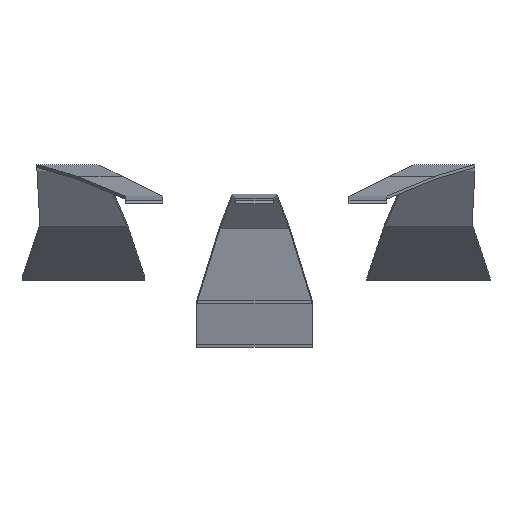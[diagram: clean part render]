
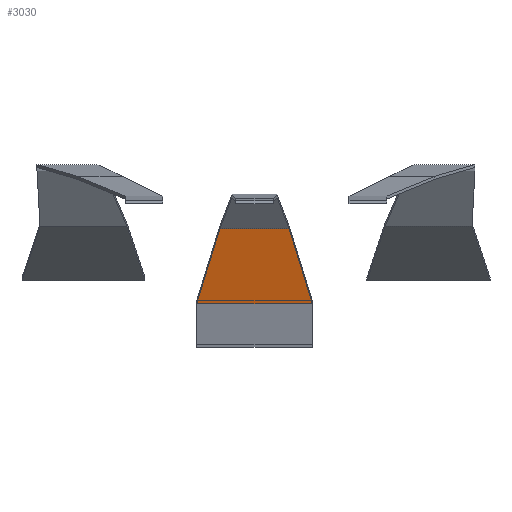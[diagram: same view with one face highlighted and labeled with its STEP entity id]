
A CAD part, top view. The second image highlights one B-rep face of the part: STEP entity #3030.
In plain terms, the highlighted free-form (B-spline) face has degree [1, 1] with [2, 2] control points.
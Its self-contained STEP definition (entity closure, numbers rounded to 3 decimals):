
#2724 = PLANE('',#2725);
#2725 = AXIS2_PLACEMENT_3D('',#2726,#2727,#2728);
#2726 = CARTESIAN_POINT('',(-3.95,-20.3,15.5));
#2727 = DIRECTION('',(0.,-0.326,0.945));
#2728 = DIRECTION('',(1.,0.,0.));
#2749 = VERTEX_POINT('',#2750);
#2750 = CARTESIAN_POINT('',(3.75,-20.3,15.5));
#2774 = EDGE_CURVE('',#2775,#2749,#2777,.T.);
#2775 = VERTEX_POINT('',#2776);
#2776 = CARTESIAN_POINT('',(-3.95,-20.3,15.5));
#2777 = SURFACE_CURVE('',#2778,(#2782,#2789),.PCURVE_S1.);
#2778 = LINE('',#2779,#2780);
#2779 = CARTESIAN_POINT('',(-3.95,-20.3,15.5));
#2780 = VECTOR('',#2781,1.);
#2781 = DIRECTION('',(1.,0.,0.));
#2782 = PCURVE('',#2724,#2783);
#2783 = DEFINITIONAL_REPRESENTATION('',(#2784),#2788);
#2784 = LINE('',#2785,#2786);
#2785 = CARTESIAN_POINT('',(0.,0.));
#2786 = VECTOR('',#2787,1.);
#2787 = DIRECTION('',(1.,0.));
#2788 = ( GEOMETRIC_REPRESENTATION_CONTEXT(2) 
PARAMETRIC_REPRESENTATION_CONTEXT() REPRESENTATION_CONTEXT('2D SPACE',''
  ) );
#2789 = PCURVE('',#2790,#2795);
#2790 = B_SPLINE_SURFACE_WITH_KNOTS('',1,1,(
    (#2791,#2792)
    ,(#2793,#2794
    )),.UNSPECIFIED.,.F.,.F.,.F.,(2,2),(2,2),(0.,7.7),(0.,1.),
  .PIECEWISE_BEZIER_KNOTS.);
#2791 = CARTESIAN_POINT('',(-3.95,-20.3,15.5));
#2792 = CARTESIAN_POINT('',(-2.4,-15.3,16.8));
#2793 = CARTESIAN_POINT('',(3.75,-20.3,15.5));
#2794 = CARTESIAN_POINT('',(2.2,-15.3,16.8));
#2795 = DEFINITIONAL_REPRESENTATION('',(#2796),#2800);
#2796 = LINE('',#2797,#2798);
#2797 = CARTESIAN_POINT('',(0.,0.));
#2798 = VECTOR('',#2799,1.);
#2799 = DIRECTION('',(1.,0.));
#2800 = ( GEOMETRIC_REPRESENTATION_CONTEXT(2) 
PARAMETRIC_REPRESENTATION_CONTEXT() REPRESENTATION_CONTEXT('2D SPACE',''
  ) );
#2892 = B_SPLINE_SURFACE_WITH_KNOTS('',1,1,(
    (#2893,#2894)
    ,(#2895,#2896
    )),.UNSPECIFIED.,.F.,.F.,.F.,(2,2),(2,2),(0.,0.2),(0.,1.),
  .PIECEWISE_BEZIER_KNOTS.);
#2893 = CARTESIAN_POINT('',(3.75,-20.3,15.5));
#2894 = CARTESIAN_POINT('',(2.2,-15.3,16.8));
#2895 = CARTESIAN_POINT('',(3.75,-20.1,15.5));
#2896 = CARTESIAN_POINT('',(2.2,-15.1,16.8));
#3018 = B_SPLINE_SURFACE_WITH_KNOTS('',1,1,(
    (#3019,#3020)
    ,(#3021,#3022
    )),.UNSPECIFIED.,.F.,.F.,.F.,(2,2),(2,2),(0.,0.2),(0.,1.),
  .PIECEWISE_BEZIER_KNOTS.);
#3019 = CARTESIAN_POINT('',(-3.95,-20.1,15.5));
#3020 = CARTESIAN_POINT('',(-2.4,-15.1,16.8));
#3021 = CARTESIAN_POINT('',(-3.95,-20.3,15.5));
#3022 = CARTESIAN_POINT('',(-2.4,-15.3,16.8));
#3030 = ADVANCED_FACE('',(#3031),#2790,.T.);
#3031 = FACE_BOUND('',#3032,.T.);
#3032 = EDGE_LOOP('',(#3033,#3034,#3056,#3083));
#3033 = ORIENTED_EDGE('',*,*,#2774,.T.);
#3034 = ORIENTED_EDGE('',*,*,#3035,.T.);
#3035 = EDGE_CURVE('',#2749,#3036,#3038,.T.);
#3036 = VERTEX_POINT('',#3037);
#3037 = CARTESIAN_POINT('',(2.2,-15.3,16.8));
#3038 = SURFACE_CURVE('',#3039,(#3042,#3049),.PCURVE_S1.);
#3039 = B_SPLINE_CURVE_WITH_KNOTS('',1,(#3040,#3041),.UNSPECIFIED.,.F.,
  .F.,(2,2),(0.,1.),.PIECEWISE_BEZIER_KNOTS.);
#3040 = CARTESIAN_POINT('',(3.75,-20.3,15.5));
#3041 = CARTESIAN_POINT('',(2.2,-15.3,16.8));
#3042 = PCURVE('',#2790,#3043);
#3043 = DEFINITIONAL_REPRESENTATION('',(#3044),#3048);
#3044 = LINE('',#3045,#3046);
#3045 = CARTESIAN_POINT('',(7.7,0.));
#3046 = VECTOR('',#3047,1.);
#3047 = DIRECTION('',(0.,1.));
#3048 = ( GEOMETRIC_REPRESENTATION_CONTEXT(2) 
PARAMETRIC_REPRESENTATION_CONTEXT() REPRESENTATION_CONTEXT('2D SPACE',''
  ) );
#3049 = PCURVE('',#2892,#3050);
#3050 = DEFINITIONAL_REPRESENTATION('',(#3051),#3055);
#3051 = LINE('',#3052,#3053);
#3052 = CARTESIAN_POINT('',(0.,0.));
#3053 = VECTOR('',#3054,1.);
#3054 = DIRECTION('',(0.,1.));
#3055 = ( GEOMETRIC_REPRESENTATION_CONTEXT(2) 
PARAMETRIC_REPRESENTATION_CONTEXT() REPRESENTATION_CONTEXT('2D SPACE',''
  ) );
#3056 = ORIENTED_EDGE('',*,*,#3057,.F.);
#3057 = EDGE_CURVE('',#3058,#3036,#3060,.T.);
#3058 = VERTEX_POINT('',#3059);
#3059 = CARTESIAN_POINT('',(-2.4,-15.3,16.8));
#3060 = SURFACE_CURVE('',#3061,(#3065,#3071),.PCURVE_S1.);
#3061 = LINE('',#3062,#3063);
#3062 = CARTESIAN_POINT('',(-2.4,-15.3,16.8));
#3063 = VECTOR('',#3064,1.);
#3064 = DIRECTION('',(1.,0.,0.));
#3065 = PCURVE('',#2790,#3066);
#3066 = DEFINITIONAL_REPRESENTATION('',(#3067),#3070);
#3067 = B_SPLINE_CURVE_WITH_KNOTS('',1,(#3068,#3069),.UNSPECIFIED.,.F.,
  .F.,(2,2),(0.,4.6),.PIECEWISE_BEZIER_KNOTS.);
#3068 = CARTESIAN_POINT('',(0.,1.));
#3069 = CARTESIAN_POINT('',(7.7,1.));
#3070 = ( GEOMETRIC_REPRESENTATION_CONTEXT(2) 
PARAMETRIC_REPRESENTATION_CONTEXT() REPRESENTATION_CONTEXT('2D SPACE',''
  ) );
#3071 = PCURVE('',#3072,#3077);
#3072 = B_SPLINE_SURFACE_WITH_KNOTS('',1,1,(
    (#3073,#3074)
    ,(#3075,#3076
    )),.UNSPECIFIED.,.F.,.F.,.F.,(2,2),(2,2),(0.,4.6),(0.,1.),
  .PIECEWISE_BEZIER_KNOTS.);
#3073 = CARTESIAN_POINT('',(-2.4,-15.3,16.8));
#3074 = CARTESIAN_POINT('',(-1.6,-13.2,21.5));
#3075 = CARTESIAN_POINT('',(2.2,-15.3,16.8));
#3076 = CARTESIAN_POINT('',(1.4,-13.2,21.5));
#3077 = DEFINITIONAL_REPRESENTATION('',(#3078),#3082);
#3078 = LINE('',#3079,#3080);
#3079 = CARTESIAN_POINT('',(0.,0.));
#3080 = VECTOR('',#3081,1.);
#3081 = DIRECTION('',(1.,0.));
#3082 = ( GEOMETRIC_REPRESENTATION_CONTEXT(2) 
PARAMETRIC_REPRESENTATION_CONTEXT() REPRESENTATION_CONTEXT('2D SPACE',''
  ) );
#3083 = ORIENTED_EDGE('',*,*,#3084,.F.);
#3084 = EDGE_CURVE('',#2775,#3058,#3085,.T.);
#3085 = SURFACE_CURVE('',#3086,(#3089,#3096),.PCURVE_S1.);
#3086 = B_SPLINE_CURVE_WITH_KNOTS('',1,(#3087,#3088),.UNSPECIFIED.,.F.,
  .F.,(2,2),(0.,1.),.PIECEWISE_BEZIER_KNOTS.);
#3087 = CARTESIAN_POINT('',(-3.95,-20.3,15.5));
#3088 = CARTESIAN_POINT('',(-2.4,-15.3,16.8));
#3089 = PCURVE('',#2790,#3090);
#3090 = DEFINITIONAL_REPRESENTATION('',(#3091),#3095);
#3091 = LINE('',#3092,#3093);
#3092 = CARTESIAN_POINT('',(0.,0.));
#3093 = VECTOR('',#3094,1.);
#3094 = DIRECTION('',(0.,1.));
#3095 = ( GEOMETRIC_REPRESENTATION_CONTEXT(2) 
PARAMETRIC_REPRESENTATION_CONTEXT() REPRESENTATION_CONTEXT('2D SPACE',''
  ) );
#3096 = PCURVE('',#3018,#3097);
#3097 = DEFINITIONAL_REPRESENTATION('',(#3098),#3102);
#3098 = LINE('',#3099,#3100);
#3099 = CARTESIAN_POINT('',(0.2,0.));
#3100 = VECTOR('',#3101,1.);
#3101 = DIRECTION('',(0.,1.));
#3102 = ( GEOMETRIC_REPRESENTATION_CONTEXT(2) 
PARAMETRIC_REPRESENTATION_CONTEXT() REPRESENTATION_CONTEXT('2D SPACE',''
  ) );
